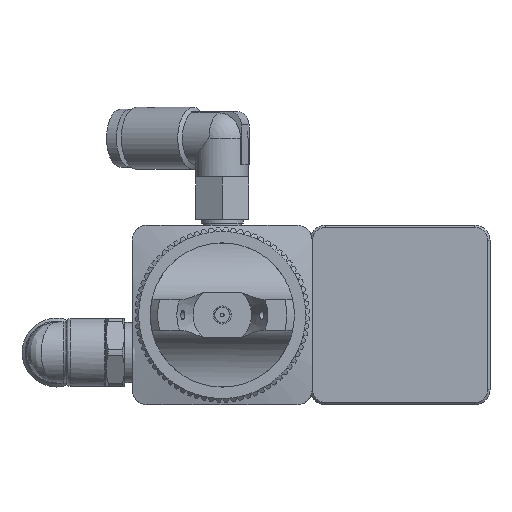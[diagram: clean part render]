
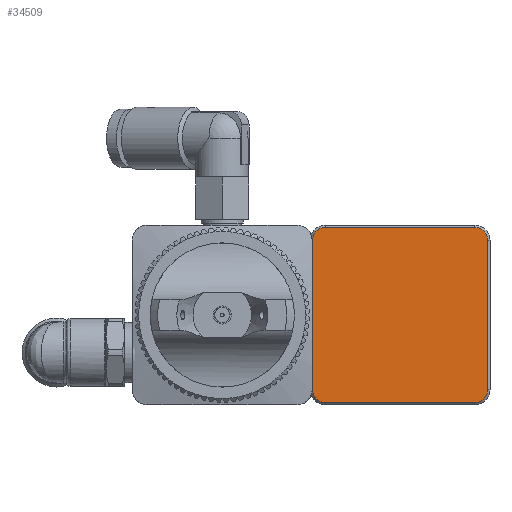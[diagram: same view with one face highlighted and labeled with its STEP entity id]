
A CAD part, front view. The second image highlights one B-rep face of the part: STEP entity #34509.
In plain terms, the highlighted planar face has unit normal (0, -1, 0).
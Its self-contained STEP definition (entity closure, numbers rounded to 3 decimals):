
#545 = CARTESIAN_POINT ( 'NONE',  ( -11.55, -26.85, 0. ) ) ;
#628 = VECTOR ( 'NONE', #6358, 1000. ) ;
#1720 = VECTOR ( 'NONE', #17868, 1000. ) ;
#1820 = PLANE ( 'NONE',  #43444 ) ;
#2066 = DIRECTION ( 'NONE',  ( 0., 0., 1. ) ) ;
#2324 = DIRECTION ( 'NONE',  ( 0., -1., 0. ) ) ;
#2455 = CIRCLE ( 'NONE', #44589, 1.7 ) ;
#2638 = CIRCLE ( 'NONE', #23323, 1.7 ) ;
#2748 = ORIENTED_EDGE ( 'NONE', *, *, #22339, .T. ) ;
#3123 = VERTEX_POINT ( 'NONE', #24330 ) ;
#4007 = VECTOR ( 'NONE', #16331, 1000. ) ;
#4818 = VECTOR ( 'NONE', #30752, 1000. ) ;
#5191 = VERTEX_POINT ( 'NONE', #18055 ) ;
#5376 = ORIENTED_EDGE ( 'NONE', *, *, #9025, .T. ) ;
#6224 = CARTESIAN_POINT ( 'NONE',  ( 0., -26.85, 0. ) ) ;
#6358 = DIRECTION ( 'NONE',  ( -1., 0., 0. ) ) ;
#6585 = EDGE_CURVE ( 'NONE', #5191, #29851, #22388, .T. ) ;
#7465 = LINE ( 'NONE', #42134, #4818 ) ;
#8142 = VERTEX_POINT ( 'NONE', #14935 ) ;
#8635 = EDGE_CURVE ( 'NONE', #49363, #40382, #36012, .T. ) ;
#9025 = EDGE_CURVE ( 'NONE', #13244, #3123, #7465, .T. ) ;
#10364 = CARTESIAN_POINT ( 'NONE',  ( 9.85, -26.85, 9.85 ) ) ;
#10995 = DIRECTION ( 'NONE',  ( 0., 0., 1. ) ) ;
#13244 = VERTEX_POINT ( 'NONE', #15168 ) ;
#13616 = EDGE_CURVE ( 'NONE', #29851, #49363, #18615, .T. ) ;
#14935 = CARTESIAN_POINT ( 'NONE',  ( 11.55, -26.85, 9.85 ) ) ;
#15168 = CARTESIAN_POINT ( 'NONE',  ( -9.85, -26.85, -11.55 ) ) ;
#15461 = CARTESIAN_POINT ( 'NONE',  ( -11.55, -26.85, 9.85 ) ) ;
#16047 = EDGE_CURVE ( 'NONE', #40382, #13244, #23894, .T. ) ;
#16331 = DIRECTION ( 'NONE',  ( 0., 0., -1. ) ) ;
#17868 = DIRECTION ( 'NONE',  ( 0., 0., 1. ) ) ;
#18055 = CARTESIAN_POINT ( 'NONE',  ( 9.85, -26.85, 11.55 ) ) ;
#18485 = ORIENTED_EDGE ( 'NONE', *, *, #46386, .T. ) ;
#18615 = CIRCLE ( 'NONE', #44280, 1.7 ) ;
#19685 = ORIENTED_EDGE ( 'NONE', *, *, #16047, .T. ) ;
#20572 = ORIENTED_EDGE ( 'NONE', *, *, #40737, .T. ) ;
#21997 = FACE_OUTER_BOUND ( 'NONE', #30487, .T. ) ;
#22241 = AXIS2_PLACEMENT_3D ( 'NONE', #24987, #33253, #36874 ) ;
#22339 = EDGE_CURVE ( 'NONE', #8142, #5191, #2455, .T. ) ;
#22388 = LINE ( 'NONE', #41799, #628 ) ;
#22622 = DIRECTION ( 'NONE',  ( 0., -1., 0. ) ) ;
#22722 = DIRECTION ( 'NONE',  ( 0., 0., 1. ) ) ;
#23323 = AXIS2_PLACEMENT_3D ( 'NONE', #51207, #31527, #22722 ) ;
#23894 = CIRCLE ( 'NONE', #22241, 1.7 ) ;
#24330 = CARTESIAN_POINT ( 'NONE',  ( 9.85, -26.85, -11.55 ) ) ;
#24987 = CARTESIAN_POINT ( 'NONE',  ( -9.85, -26.85, -9.85 ) ) ;
#27098 = CARTESIAN_POINT ( 'NONE',  ( 11.55, -26.85, -9.85 ) ) ;
#27470 = ORIENTED_EDGE ( 'NONE', *, *, #6585, .T. ) ;
#29851 = VERTEX_POINT ( 'NONE', #33081 ) ;
#30487 = EDGE_LOOP ( 'NONE', ( #18485, #2748, #27470, #44142, #47555, #19685, #5376, #20572 ) ) ;
#30752 = DIRECTION ( 'NONE',  ( 1., 0., 0. ) ) ;
#31527 = DIRECTION ( 'NONE',  ( 0., -1., 0. ) ) ;
#33081 = CARTESIAN_POINT ( 'NONE',  ( -9.85, -26.85, 11.55 ) ) ;
#33253 = DIRECTION ( 'NONE',  ( 0., -1., 0. ) ) ;
#33731 = CARTESIAN_POINT ( 'NONE',  ( -11.55, -26.85, -9.85 ) ) ;
#34509 = ADVANCED_FACE ( 'NONE', ( #21997 ), #1820, .F. ) ;
#36012 = LINE ( 'NONE', #545, #4007 ) ;
#36874 = DIRECTION ( 'NONE',  ( 0., 0., 1. ) ) ;
#37292 = CARTESIAN_POINT ( 'NONE',  ( 11.55, -26.85, 0. ) ) ;
#38462 = VERTEX_POINT ( 'NONE', #27098 ) ;
#40382 = VERTEX_POINT ( 'NONE', #33731 ) ;
#40675 = LINE ( 'NONE', #37292, #1720 ) ;
#40737 = EDGE_CURVE ( 'NONE', #3123, #38462, #2638, .T. ) ;
#41799 = CARTESIAN_POINT ( 'NONE',  ( 0., -26.85, 11.55 ) ) ;
#42134 = CARTESIAN_POINT ( 'NONE',  ( 0., -26.85, -11.55 ) ) ;
#43444 = AXIS2_PLACEMENT_3D ( 'NONE', #6224, #45550, #49200 ) ;
#44142 = ORIENTED_EDGE ( 'NONE', *, *, #13616, .T. ) ;
#44280 = AXIS2_PLACEMENT_3D ( 'NONE', #46697, #22622, #10995 ) ;
#44589 = AXIS2_PLACEMENT_3D ( 'NONE', #10364, #2324, #2066 ) ;
#45550 = DIRECTION ( 'NONE',  ( 0., 1., 0. ) ) ;
#46386 = EDGE_CURVE ( 'NONE', #38462, #8142, #40675, .T. ) ;
#46697 = CARTESIAN_POINT ( 'NONE',  ( -9.85, -26.85, 9.85 ) ) ;
#47555 = ORIENTED_EDGE ( 'NONE', *, *, #8635, .T. ) ;
#49200 = DIRECTION ( 'NONE',  ( 0., 0., 1. ) ) ;
#49363 = VERTEX_POINT ( 'NONE', #15461 ) ;
#51207 = CARTESIAN_POINT ( 'NONE',  ( 9.85, -26.85, -9.85 ) ) ;
